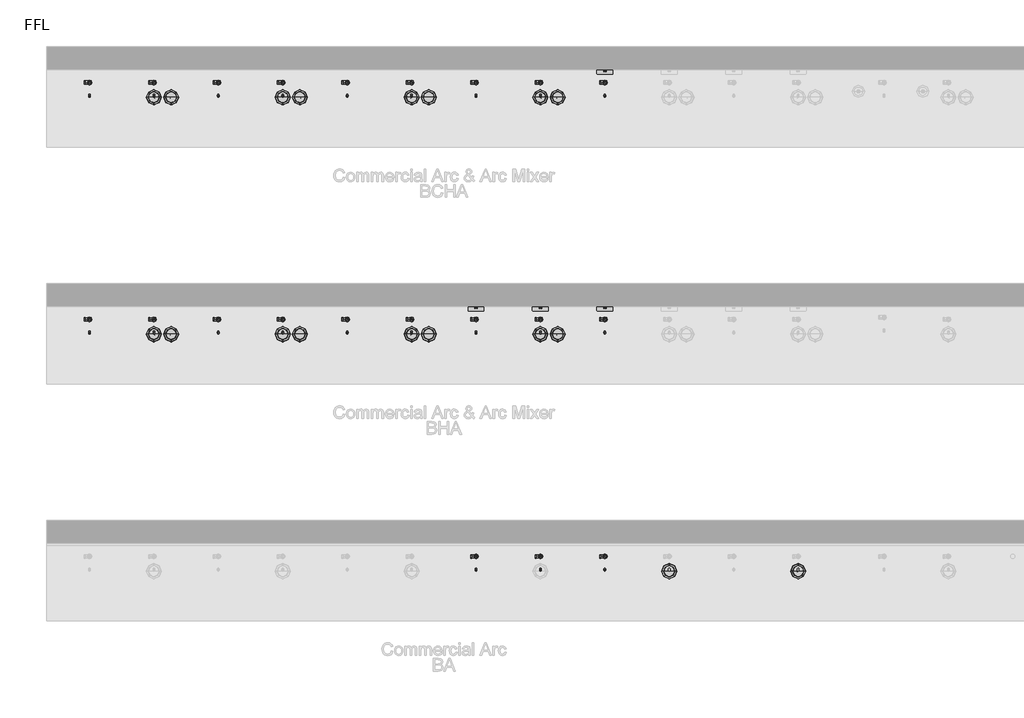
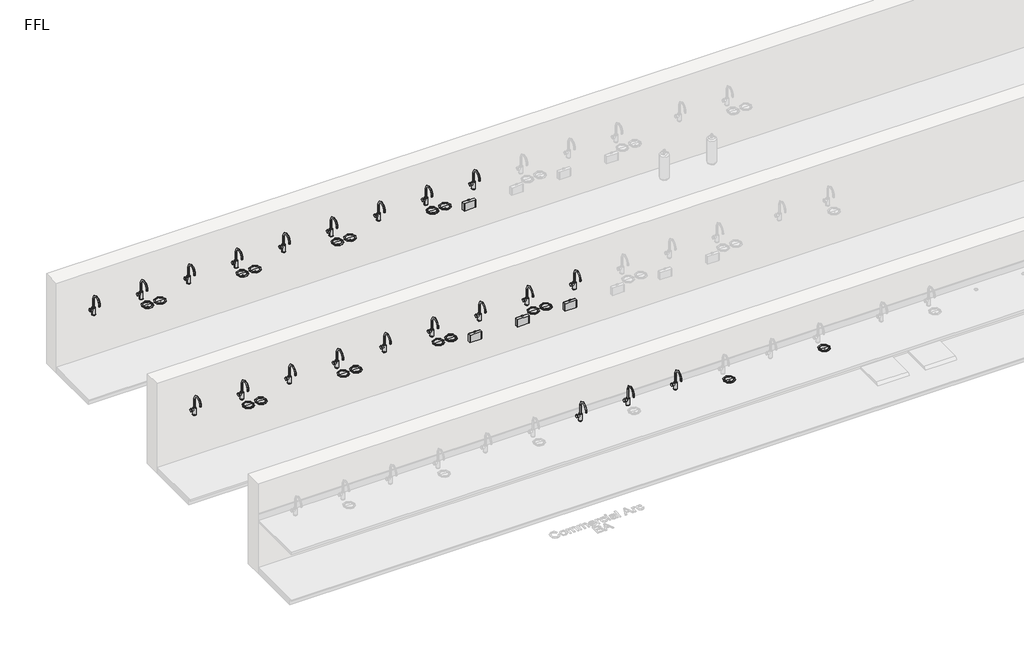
# One storey, part 4 of 10: 45 flow terminals.
"""IFC4 building model written with IfcOpenShell, lengths in millimetres."""

from ifc_helpers import new_model, si_unit, origin, place, context, project, spatial, transform, mapped, element, save
from components import flow_terminal_100_people_matte_black_0dc622b1, bright_chrome_743c02cf, bright_chrome_7ff5033f

model = new_model("IFC4")

# Units and contexts
model_context = context("Model", 3, world=origin())
ifc_project = project(units=[si_unit("LENGTHUNIT", "METRE", prefix="MILLI")], contexts=[model_context])

# Site, building, storey
site = spatial("IfcSite", under=ifc_project)
building = spatial("IfcBuilding", under=site)
storey = spatial("IfcBuildingStorey", under=building, Name="FFL", Elevation=0.0)

# Flow terminals
placement = place(None, origin())
flow_terminal_100_people_matte_black_shape = flow_terminal_100_people_matte_black_0dc622b1(model_context)
element("IfcFlowTerminal", 1, ObjectType="PlumFixt_Zip Commercial_Arc_Arc Mixer_BHA : 100 People - Gold", at=placement, inside=storey, context=model_context, shape_type="MappedRepresentation", body=[
    mapped(flow_terminal_100_people_matte_black_shape, transform((-1970.7352929, 4822.7393304, 0.0), x_axis=(1.0, 0.0, 0.0), y_axis=(0.0, 1.0, 0.0), z_axis=(0.0, 0.0, 1.0))),
])
element("IfcFlowTerminal", 2, ObjectType="PlumFixt_Zip Commercial_Arc_Arc Mixer_BHA : 100 People - Gunmetal", at=placement, inside=storey, context=model_context, shape_type="MappedRepresentation", body=[
    mapped(flow_terminal_100_people_matte_black_shape, transform((-1220.7352929, 4822.7393304, 0.0), x_axis=(1.0, 0.0, 0.0), y_axis=(0.0, 1.0, 0.0), z_axis=(0.0, 0.0, 1.0))),
])
element("IfcFlowTerminal", 3, ObjectType="PlumFixt_Zip Commercial_Arc_BA : 100 People - Gunmetal", at=placement, inside=storey, context=model_context, shape_type="MappedRepresentation", body=[
    mapped(flow_terminal_100_people_matte_black_shape, transform((-1220.7352929, 2062.7393304, 0.0), x_axis=(1.0, 0.0, 0.0), y_axis=(0.0, 1.0, 0.0), z_axis=(0.0, 0.0, 1.0))),
])
element("IfcFlowTerminal", 4, ObjectType="PlumFixt_Zip Commercial_Arc_Arc Mixer_BCHA : 100 People - Matte Black", at=placement, inside=storey, context=model_context, shape_type="MappedRepresentation", body=[
    mapped(flow_terminal_100_people_matte_black_shape, transform((-470.7352929, 7582.7393304, 0.0), x_axis=(1.0, 0.0, 0.0), y_axis=(0.0, 1.0, 0.0), z_axis=(0.0, 0.0, 1.0))),
])
element("IfcFlowTerminal", 5, ObjectType="PlumFixt_Zip Commercial_Arc_Arc Mixer_BHA : 100 People - Matte Black", at=placement, inside=storey, context=model_context, shape_type="MappedRepresentation", body=[
    mapped(flow_terminal_100_people_matte_black_shape, transform((-470.7352929, 4822.7393304, 0.0), x_axis=(1.0, 0.0, 0.0), y_axis=(0.0, 1.0, 0.0), z_axis=(0.0, 0.0, 1.0))),
])
element("IfcFlowTerminal", 6, ObjectType="PlumFixt_Zip Commercial_Arc_BA : 100 People - Matte Black", at=placement, inside=storey, context=model_context, shape_type="MappedRepresentation", body=[
    mapped(flow_terminal_100_people_matte_black_shape, transform((-470.7352929, 2062.7393304, 0.0), x_axis=(1.0, 0.0, 0.0), y_axis=(0.0, 1.0, 0.0), z_axis=(0.0, 0.0, 1.0))),
])
bright_chrome_shape = bright_chrome_743c02cf(model_context)
element("IfcFlowTerminal", 7, ObjectType="z_PlumFixt_Zip_Font : Bright Chrome", at=placement, inside=storey, context=model_context, shape_type="MappedRepresentation", body=[
    mapped(bright_chrome_shape, transform((279.2647071, 1991.2393304, 900.0), x_axis=(1.0000000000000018, 0.0, 0.0), y_axis=(0.0, 1.0000000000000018, 0.0), z_axis=(0.0, 0.0, 1.0))),
])
element("IfcFlowTerminal", 8, ObjectType="z_PlumFixt_Zip_Font : Bright Chrome", at=placement, inside=storey, context=model_context, shape_type="MappedRepresentation", body=[
    mapped(bright_chrome_shape, transform((1779.2647071, 1991.2393304, 900.0), x_axis=(1.0000000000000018, 0.0, 0.0), y_axis=(0.0, 1.0000000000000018, 0.0), z_axis=(0.0, 0.0, 1.0))),
])
element("IfcFlowTerminal", 9, ObjectType="z_PlumFixt_Zip_Font : Bright Chrome", at=placement, inside=storey, context=model_context, shape_type="MappedRepresentation", body=[
    mapped(bright_chrome_shape, transform((-5720.7352929, 7511.2393304, 900.0), x_axis=(1.0000000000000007, 0.0, 0.0), y_axis=(0.0, 1.0000000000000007, 0.0), z_axis=(0.0, 0.0, 1.0))),
])
element("IfcFlowTerminal", 10, ObjectType="z_PlumFixt_Zip_Font : Bright Chrome", at=placement, inside=storey, context=model_context, shape_type="MappedRepresentation", body=[
    mapped(bright_chrome_shape, transform((-4220.7352929, 7511.2393304, 900.0), x_axis=(1.0000000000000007, 0.0, 0.0), y_axis=(0.0, 1.0000000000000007, 0.0), z_axis=(0.0, 0.0, 1.0))),
])
element("IfcFlowTerminal", 11, ObjectType="z_PlumFixt_Zip_Font : Bright Chrome", at=placement, inside=storey, context=model_context, shape_type="MappedRepresentation", body=[
    mapped(bright_chrome_shape, transform((-2720.7352929, 7511.2393304, 900.0), x_axis=(1.0000000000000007, 0.0, 0.0), y_axis=(0.0, 1.0000000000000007, 0.0), z_axis=(0.0, 0.0, 1.0))),
])
element("IfcFlowTerminal", 12, ObjectType="z_PlumFixt_Zip_Font : Bright Chrome", at=placement, inside=storey, context=model_context, shape_type="MappedRepresentation", body=[
    mapped(bright_chrome_shape, transform((-1220.7352929, 7511.2393304, 900.0), x_axis=(1.0000000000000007, 0.0, 0.0), y_axis=(0.0, 1.0000000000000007, 0.0), z_axis=(0.0, 0.0, 1.0))),
])
element("IfcFlowTerminal", 13, ObjectType="z_PlumFixt_Zip_Font : Bright Chrome", at=placement, inside=storey, context=model_context, shape_type="MappedRepresentation", body=[
    mapped(bright_chrome_shape, transform((-5520.7352929, 7511.2393304, 900.0), x_axis=(1.0000000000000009, 0.0, 0.0), y_axis=(0.0, 1.0000000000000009, 0.0), z_axis=(0.0, 0.0, 1.0))),
])
element("IfcFlowTerminal", 14, ObjectType="z_PlumFixt_Zip_Font : Bright Chrome", at=placement, inside=storey, context=model_context, shape_type="MappedRepresentation", body=[
    mapped(bright_chrome_shape, transform((-4020.7352929, 7511.2393304, 900.0), x_axis=(1.0000000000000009, 0.0, 0.0), y_axis=(0.0, 1.0000000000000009, 0.0), z_axis=(0.0, 0.0, 1.0))),
])
element("IfcFlowTerminal", 15, ObjectType="z_PlumFixt_Zip_Font : Bright Chrome", at=placement, inside=storey, context=model_context, shape_type="MappedRepresentation", body=[
    mapped(bright_chrome_shape, transform((-2520.7352929, 7511.2393304, 900.0), x_axis=(1.0000000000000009, 0.0, 0.0), y_axis=(0.0, 1.0000000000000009, 0.0), z_axis=(0.0, 0.0, 1.0))),
])
element("IfcFlowTerminal", 16, ObjectType="z_PlumFixt_Zip_Font : Bright Chrome", at=placement, inside=storey, context=model_context, shape_type="MappedRepresentation", body=[
    mapped(bright_chrome_shape, transform((-1020.7352929, 7511.2393304, 900.0), x_axis=(1.0000000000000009, 0.0, 0.0), y_axis=(0.0, 1.0000000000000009, 0.0), z_axis=(0.0, 0.0, 1.0))),
])
element("IfcFlowTerminal", 17, ObjectType="z_PlumFixt_Zip_Font : Bright Chrome", at=placement, inside=storey, context=model_context, shape_type="MappedRepresentation", body=[
    mapped(bright_chrome_shape, transform((-5720.7352929, 4751.2393304, 900.0), x_axis=(1.0000000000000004, 0.0, 0.0), y_axis=(0.0, 1.0000000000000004, 0.0), z_axis=(0.0, 0.0, 1.0))),
])
element("IfcFlowTerminal", 18, ObjectType="z_PlumFixt_Zip_Font : Bright Chrome", at=placement, inside=storey, context=model_context, shape_type="MappedRepresentation", body=[
    mapped(bright_chrome_shape, transform((-4220.7352929, 4751.2393304, 900.0), x_axis=(1.0000000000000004, 0.0, 0.0), y_axis=(0.0, 1.0000000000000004, 0.0), z_axis=(0.0, 0.0, 1.0))),
])
element("IfcFlowTerminal", 19, ObjectType="z_PlumFixt_Zip_Font : Bright Chrome", at=placement, inside=storey, context=model_context, shape_type="MappedRepresentation", body=[
    mapped(bright_chrome_shape, transform((-2720.7352929, 4751.2393304, 900.0), x_axis=(1.0000000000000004, 0.0, 0.0), y_axis=(0.0, 1.0000000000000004, 0.0), z_axis=(0.0, 0.0, 1.0))),
])
element("IfcFlowTerminal", 20, ObjectType="z_PlumFixt_Zip_Font : Bright Chrome", at=placement, inside=storey, context=model_context, shape_type="MappedRepresentation", body=[
    mapped(bright_chrome_shape, transform((-5520.7352929, 4751.2393304, 900.0), x_axis=(1.0000000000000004, 0.0, 0.0), y_axis=(0.0, 1.0000000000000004, 0.0), z_axis=(0.0, 0.0, 1.0))),
])
element("IfcFlowTerminal", 21, ObjectType="z_PlumFixt_Zip_Font : Bright Chrome", at=placement, inside=storey, context=model_context, shape_type="MappedRepresentation", body=[
    mapped(bright_chrome_shape, transform((-4020.7352929, 4751.2393304, 900.0), x_axis=(1.0000000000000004, 0.0, 0.0), y_axis=(0.0, 1.0000000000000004, 0.0), z_axis=(0.0, 0.0, 1.0))),
])
element("IfcFlowTerminal", 22, ObjectType="z_PlumFixt_Zip_Font : Bright Chrome", at=placement, inside=storey, context=model_context, shape_type="MappedRepresentation", body=[
    mapped(bright_chrome_shape, transform((-2520.7352929, 4751.2393304, 900.0), x_axis=(1.0000000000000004, 0.0, 0.0), y_axis=(0.0, 1.0000000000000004, 0.0), z_axis=(0.0, 0.0, 1.0))),
])
element("IfcFlowTerminal", 23, ObjectType="z_PlumFixt_Zip_Font : Bright Chrome", at=placement, inside=storey, context=model_context, shape_type="MappedRepresentation", body=[
    mapped(bright_chrome_shape, transform((-1220.7352929, 4751.2393304, 900.0), x_axis=(1.0000000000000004, 0.0, 0.0), y_axis=(0.0, 1.0000000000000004, 0.0), z_axis=(0.0, 0.0, 1.0))),
])
element("IfcFlowTerminal", 24, ObjectType="z_PlumFixt_Zip_Font : Bright Chrome", at=placement, inside=storey, context=model_context, shape_type="MappedRepresentation", body=[
    mapped(bright_chrome_shape, transform((-1020.7352929, 4751.2393304, 900.0), x_axis=(1.0000000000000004, 0.0, 0.0), y_axis=(0.0, 1.0000000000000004, 0.0), z_axis=(0.0, 0.0, 1.0))),
])
bright_chrome_2_shape = bright_chrome_7ff5033f(model_context)
element("IfcFlowTerminal", 25, ObjectType="z_PlumFixt_Zip_Arc : Bright Chrome", at=placement, inside=storey, context=model_context, shape_type="MappedRepresentation", body=[
    mapped(bright_chrome_2_shape, transform((-6487.7352929, 7610.7393304, 900.0), x_axis=(1.0000000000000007, 0.0, 0.0), y_axis=(0.0, 1.0000000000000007, 0.0), z_axis=(0.0, 0.0, 1.0))),
])
element("IfcFlowTerminal", 26, ObjectType="z_PlumFixt_Zip_Arc : Bright Chrome", at=placement, inside=storey, context=model_context, shape_type="MappedRepresentation", body=[
    mapped(bright_chrome_2_shape, transform((-6487.7352929, 4850.7393304, 900.0), x_axis=(1.0000000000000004, 0.0, 0.0), y_axis=(0.0, 1.0000000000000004, 0.0), z_axis=(0.0, 0.0, 1.0))),
])
element("IfcFlowTerminal", 27, ObjectType="z_PlumFixt_Zip_Arc : Brushed Chrome", at=placement, inside=storey, context=model_context, shape_type="MappedRepresentation", body=[
    mapped(bright_chrome_2_shape, transform((-5737.7352929, 7610.7393304, 900.0), x_axis=(1.0000000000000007, 0.0, 0.0), y_axis=(0.0, 1.0000000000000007, 0.0), z_axis=(0.0, 0.0, 1.0))),
])
element("IfcFlowTerminal", 28, ObjectType="z_PlumFixt_Zip_Arc : Brushed Chrome", at=placement, inside=storey, context=model_context, shape_type="MappedRepresentation", body=[
    mapped(bright_chrome_2_shape, transform((-5737.7352929, 4850.7393304, 900.0), x_axis=(1.0000000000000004, 0.0, 0.0), y_axis=(0.0, 1.0000000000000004, 0.0), z_axis=(0.0, 0.0, 1.0))),
])
element("IfcFlowTerminal", 29, ObjectType="z_PlumFixt_Zip_Arc : Brushed Gold", at=placement, inside=storey, context=model_context, shape_type="MappedRepresentation", body=[
    mapped(bright_chrome_2_shape, transform((-4987.7352929, 7610.7393304, 900.0), x_axis=(1.0000000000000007, 0.0, 0.0), y_axis=(0.0, 1.0000000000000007, 0.0), z_axis=(0.0, 0.0, 1.0))),
])
element("IfcFlowTerminal", 30, ObjectType="z_PlumFixt_Zip_Arc : Brushed Gold", at=placement, inside=storey, context=model_context, shape_type="MappedRepresentation", body=[
    mapped(bright_chrome_2_shape, transform((-4987.7352929, 4850.7393304, 900.0), x_axis=(1.0000000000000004, 0.0, 0.0), y_axis=(0.0, 1.0000000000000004, 0.0), z_axis=(0.0, 0.0, 1.0))),
])
element("IfcFlowTerminal", 31, ObjectType="z_PlumFixt_Zip_Arc : Brushed Nickel", at=placement, inside=storey, context=model_context, shape_type="MappedRepresentation", body=[
    mapped(bright_chrome_2_shape, transform((-4237.7352929, 7610.7393304, 900.0), x_axis=(1.0000000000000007, 0.0, 0.0), y_axis=(0.0, 1.0000000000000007, 0.0), z_axis=(0.0, 0.0, 1.0))),
])
element("IfcFlowTerminal", 32, ObjectType="z_PlumFixt_Zip_Arc : Brushed Nickel", at=placement, inside=storey, context=model_context, shape_type="MappedRepresentation", body=[
    mapped(bright_chrome_2_shape, transform((-4237.7352929, 4850.7393304, 900.0), x_axis=(1.0000000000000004, 0.0, 0.0), y_axis=(0.0, 1.0000000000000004, 0.0), z_axis=(0.0, 0.0, 1.0))),
])
element("IfcFlowTerminal", 33, ObjectType="z_PlumFixt_Zip_Arc : Brushed Rose Gold", at=placement, inside=storey, context=model_context, shape_type="MappedRepresentation", body=[
    mapped(bright_chrome_2_shape, transform((-3487.7352929, 7610.7393304, 900.0), x_axis=(1.0000000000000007, 0.0, 0.0), y_axis=(0.0, 1.0000000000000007, 0.0), z_axis=(0.0, 0.0, 1.0))),
])
element("IfcFlowTerminal", 34, ObjectType="z_PlumFixt_Zip_Arc : Brushed Rose Gold", at=placement, inside=storey, context=model_context, shape_type="MappedRepresentation", body=[
    mapped(bright_chrome_2_shape, transform((-3487.7352929, 4850.7393304, 900.0), x_axis=(1.0000000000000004, 0.0, 0.0), y_axis=(0.0, 1.0000000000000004, 0.0), z_axis=(0.0, 0.0, 1.0))),
])
element("IfcFlowTerminal", 35, ObjectType="z_PlumFixt_Zip_Arc : Gloss Black", at=placement, inside=storey, context=model_context, shape_type="MappedRepresentation", body=[
    mapped(bright_chrome_2_shape, transform((-2737.7352929, 7610.7393304, 900.0), x_axis=(1.0000000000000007, 0.0, 0.0), y_axis=(0.0, 1.0000000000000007, 0.0), z_axis=(0.0, 0.0, 1.0))),
])
element("IfcFlowTerminal", 36, ObjectType="z_PlumFixt_Zip_Arc : Gloss Black", at=placement, inside=storey, context=model_context, shape_type="MappedRepresentation", body=[
    mapped(bright_chrome_2_shape, transform((-2737.7352929, 4850.7393304, 900.0), x_axis=(1.0000000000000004, 0.0, 0.0), y_axis=(0.0, 1.0000000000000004, 0.0), z_axis=(0.0, 0.0, 1.0))),
])
element("IfcFlowTerminal", 37, ObjectType="z_PlumFixt_Zip_Arc : Gold", at=placement, inside=storey, context=model_context, shape_type="MappedRepresentation", body=[
    mapped(bright_chrome_2_shape, transform((-1987.7352929, 2090.7393304, 900.0), x_axis=(1.0000000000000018, 0.0, 0.0), y_axis=(0.0, 1.0000000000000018, 0.0), z_axis=(0.0, 0.0, 1.0))),
])
element("IfcFlowTerminal", 38, ObjectType="z_PlumFixt_Zip_Arc : Gold", at=placement, inside=storey, context=model_context, shape_type="MappedRepresentation", body=[
    mapped(bright_chrome_2_shape, transform((-1987.7352929, 7610.7393304, 900.0), x_axis=(1.0000000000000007, 0.0, 0.0), y_axis=(0.0, 1.0000000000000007, 0.0), z_axis=(0.0, 0.0, 1.0))),
])
element("IfcFlowTerminal", 39, ObjectType="z_PlumFixt_Zip_Arc : Gold", at=placement, inside=storey, context=model_context, shape_type="MappedRepresentation", body=[
    mapped(bright_chrome_2_shape, transform((-1987.7352929, 4850.7393304, 900.0), x_axis=(1.0000000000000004, 0.0, 0.0), y_axis=(0.0, 1.0000000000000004, 0.0), z_axis=(0.0, 0.0, 1.0))),
])
element("IfcFlowTerminal", 40, ObjectType="z_PlumFixt_Zip_Arc : Gunmetal", at=placement, inside=storey, context=model_context, shape_type="MappedRepresentation", body=[
    mapped(bright_chrome_2_shape, transform((-1237.7352929, 2090.7393304, 900.0), x_axis=(1.0000000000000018, 0.0, 0.0), y_axis=(0.0, 1.0000000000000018, 0.0), z_axis=(0.0, 0.0, 1.0))),
])
element("IfcFlowTerminal", 41, ObjectType="z_PlumFixt_Zip_Arc : Gunmetal", at=placement, inside=storey, context=model_context, shape_type="MappedRepresentation", body=[
    mapped(bright_chrome_2_shape, transform((-1237.7352929, 7610.7393304, 900.0), x_axis=(1.0000000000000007, 0.0, 0.0), y_axis=(0.0, 1.0000000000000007, 0.0), z_axis=(0.0, 0.0, 1.0))),
])
element("IfcFlowTerminal", 42, ObjectType="z_PlumFixt_Zip_Arc : Gunmetal", at=placement, inside=storey, context=model_context, shape_type="MappedRepresentation", body=[
    mapped(bright_chrome_2_shape, transform((-1237.7352929, 4850.7393304, 900.0), x_axis=(1.0000000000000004, 0.0, 0.0), y_axis=(0.0, 1.0000000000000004, 0.0), z_axis=(0.0, 0.0, 1.0))),
])
element("IfcFlowTerminal", 43, ObjectType="z_PlumFixt_Zip_Arc : Matte Black", at=placement, inside=storey, context=model_context, shape_type="MappedRepresentation", body=[
    mapped(bright_chrome_2_shape, transform((-487.7352929, 2090.7393304, 900.0), x_axis=(1.0000000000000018, 0.0, 0.0), y_axis=(0.0, 1.0000000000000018, 0.0), z_axis=(0.0, 0.0, 1.0))),
])
element("IfcFlowTerminal", 44, ObjectType="z_PlumFixt_Zip_Arc : Matte Black", at=placement, inside=storey, context=model_context, shape_type="MappedRepresentation", body=[
    mapped(bright_chrome_2_shape, transform((-487.7352929, 7610.7393304, 900.0), x_axis=(1.0000000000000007, 0.0, 0.0), y_axis=(0.0, 1.0000000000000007, 0.0), z_axis=(0.0, 0.0, 1.0))),
])
element("IfcFlowTerminal", 45, ObjectType="z_PlumFixt_Zip_Arc : Matte Black", at=placement, inside=storey, context=model_context, shape_type="MappedRepresentation", body=[
    mapped(bright_chrome_2_shape, transform((-487.7352929, 4850.7393304, 900.0), x_axis=(1.0000000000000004, 0.0, 0.0), y_axis=(0.0, 1.0000000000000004, 0.0), z_axis=(0.0, 0.0, 1.0))),
])

save(model, "model.ifc")
